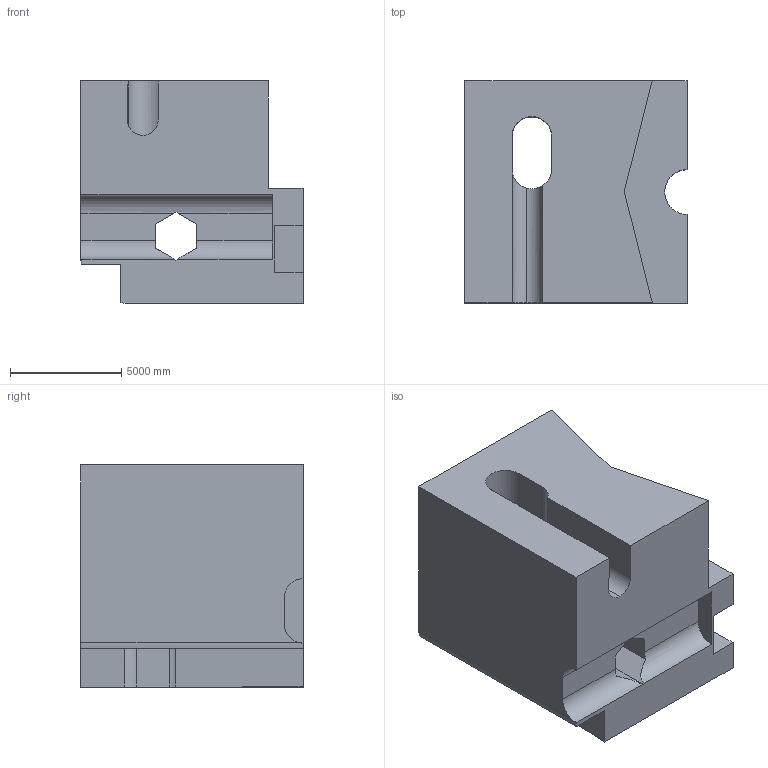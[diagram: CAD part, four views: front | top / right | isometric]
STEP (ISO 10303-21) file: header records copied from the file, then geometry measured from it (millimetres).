
FILE_DESCRIPTION (( 'STEP AP203' ), '1' );
FILE_NAME ('891.STEP', '2022-07-29T14:02:55', ( 'user' ), ( '' ), 'SwSTEP 2.0', 'SolidWorks 2021', '' );
FILE_SCHEMA (( 'CONFIG_CONTROL_DESIGN' ));
Length unit declared in the file: centimetre
Products named in the file (1): 891
Bounding box: 10000 x 10000 x 10000 mm (x, y, z)
Volume: 732991331108.4 mm3; surface area: 719033274.2 mm2
Topology: 1 solids, 1 shells, 43 faces, 138 edges, 92 vertices
Faces by surface type: plane 33, cylinder 10
Entity records: 1717 total; most frequent: CARTESIAN_POINT 422, ORIENTED_EDGE 276, DIRECTION 235, EDGE_CURVE 138, LINE 105, VECTOR 105, VERTEX_POINT 92, AXIS2_PLACEMENT_3D 65
